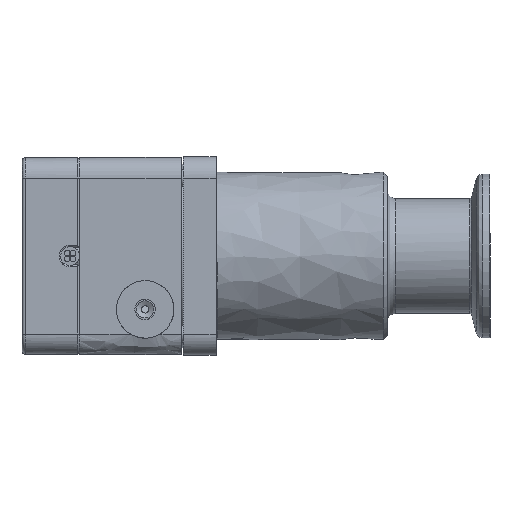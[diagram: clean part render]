
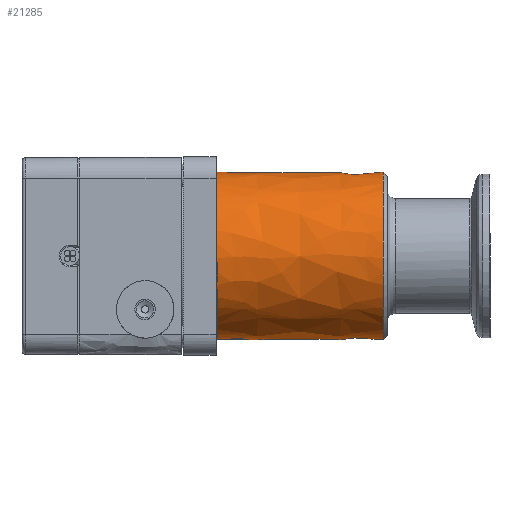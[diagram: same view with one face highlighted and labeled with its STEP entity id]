
A CAD part, left-side view. The second image highlights one B-rep face of the part: STEP entity #21285.
In plain terms, the highlighted free-form (B-spline) face has degree [2, 1] with [7, 2] control points.
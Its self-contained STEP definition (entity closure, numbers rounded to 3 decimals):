
#19732=CARTESIAN_POINT('V2',(66.5,20.45,
   0.0));
#19733=VERTEX_POINT('V2',#19732);
#19757=CARTESIAN_POINT('E2',(66.5,20.45,
   0.0));
#19758=CARTESIAN_POINT('E2',(66.5,20.45,
   35.42));
#19759=CARTESIAN_POINT('E2',(66.5,-10.225,
   17.71));
#19760=CARTESIAN_POINT('E2',(66.5,-40.9,
   0.));
#19761=CARTESIAN_POINT('E2',(66.5,-10.225,
   -17.71));
#19762=CARTESIAN_POINT('E2',(66.5,20.45,
   -35.42));
#19763=CARTESIAN_POINT('E2',(66.5,20.45,
   0.0));
#19771=(BOUNDED_CURVE()B_SPLINE_CURVE(2,(#19757,#19758,#19759,
   #19760,#19761,#19762,#19763),.CIRCULAR_ARC.,.T.,.U.)
   B_SPLINE_CURVE_WITH_KNOTS((3,2,2,3),(0.0,251.685,
   503.37,755.055),.UNSPECIFIED.)CURVE()
   GEOMETRIC_REPRESENTATION_ITEM()RATIONAL_B_SPLINE_CURVE((1.0,
   0.5,1.0,0.5,1.0,0.5,1.0)
   )REPRESENTATION_ITEM('E2'));
#19772=EDGE_CURVE('E2',#19733,#19733,#19771,.T.);
#21163=CARTESIAN_POINT('V29',(26.,20.45,
   0.0));
#21164=VERTEX_POINT('V29',#21163);
#21170=CARTESIAN_POINT('E49',(26.,20.45,
   0.0));
#21171=CARTESIAN_POINT('E49',(26.,20.45,
   35.42));
#21172=CARTESIAN_POINT('E49',(26.,-10.225,
   17.71));
#21173=CARTESIAN_POINT('E49',(26.,-40.9,
   0.));
#21174=CARTESIAN_POINT('E49',(26.,-10.225,
   -17.71));
#21175=CARTESIAN_POINT('E49',(26.,20.45,
   -35.42));
#21176=CARTESIAN_POINT('E49',(26.,20.45,
   0.0));
#21184=(BOUNDED_CURVE()B_SPLINE_CURVE(2,(#21170,#21171,#21172,
   #21173,#21174,#21175,#21176),.CIRCULAR_ARC.,.T.,.U.)
   B_SPLINE_CURVE_WITH_KNOTS((3,2,2,3),(0.0,48.867,
   97.735,146.602),.UNSPECIFIED.)CURVE()
   GEOMETRIC_REPRESENTATION_ITEM()RATIONAL_B_SPLINE_CURVE((1.0,
   0.5,1.0,0.5,1.0,0.5,1.0)
   )REPRESENTATION_ITEM('E49'));
#21185=EDGE_CURVE('E49',#21164,#21164,#21184,.T.);
#21192=CARTESIAN_POINT('F28',(26.,20.45,
   0.0));
#21193=CARTESIAN_POINT('F28',(26.,20.45,
   35.42));
#21194=CARTESIAN_POINT('F28',(26.,-10.225,
   17.71));
#21195=CARTESIAN_POINT('F28',(26.,-40.9,
   0.));
#21196=CARTESIAN_POINT('F28',(26.,-10.225,
   -17.71));
#21197=CARTESIAN_POINT('F28',(26.,20.45,
   -35.42));
#21198=CARTESIAN_POINT('F28',(26.,20.45,
   0.0));
#21199=CARTESIAN_POINT('F28',(66.5,20.45,
   0.0));
#21200=CARTESIAN_POINT('F28',(66.5,20.45,
   35.42));
#21201=CARTESIAN_POINT('F28',(66.5,-10.225,
   17.71));
#21202=CARTESIAN_POINT('F28',(66.5,-40.9,
   0.));
#21203=CARTESIAN_POINT('F28',(66.5,-10.225,
   -17.71));
#21204=CARTESIAN_POINT('F28',(66.5,20.45,
   -35.42));
#21205=CARTESIAN_POINT('F28',(66.5,20.45,
   0.0));
#21213=(BOUNDED_SURFACE()B_SPLINE_SURFACE(2,1,((#21192,#21199),(
   #21193,#21200),(#21194,#21201),(#21195,#21202),(#21196,
   #21203),(#21197,#21204),(#21198,#21205)),.CYLINDRICAL_SURF.,
   .T.,.F.,.U.)B_SPLINE_SURFACE_WITH_KNOTS((3,2,2,3),(2,2),(0.0,
   1.749,3.498,5.247),(0.0,1.0),
   .UNSPECIFIED.)GEOMETRIC_REPRESENTATION_ITEM()
   RATIONAL_B_SPLINE_SURFACE(((1.0,1.0),(0.5,
   0.5),(1.0,1.0),(0.5,
   0.5),(1.0,1.0),(0.5,
   0.5),(1.0,1.0)))REPRESENTATION_ITEM('F28')SURFACE(
   ));
#21214=CARTESIAN_POINT('V30',(50.,16.185,
   12.5));
#21215=VERTEX_POINT('V30',#21214);
#21216=CARTESIAN_POINT('V31',(37.5,20.45,
   0.0));
#21217=VERTEX_POINT('V31',#21216);
#21218=CARTESIAN_POINT('E50',(50.,16.185,
   12.5));
#21219=CARTESIAN_POINT('E50',(49.162,16.185,
   12.5));
#21220=CARTESIAN_POINT('E50',(48.334,16.251,
   12.416));
#21221=CARTESIAN_POINT('E50',(45.225,16.721,
   11.787));
#21222=CARTESIAN_POINT('E50',(43.155,17.512,
   10.697));
#21223=CARTESIAN_POINT('E50',(39.955,18.999,
   7.736));
#21224=CARTESIAN_POINT('E50',(38.618,19.779,
   5.756));
#21225=CARTESIAN_POINT('E50',(37.651,20.356,
   2.236));
#21226=CARTESIAN_POINT('E50',(37.5,20.45,
   1.125));
#21227=CARTESIAN_POINT('E50',(37.5,20.45,
   0.0));
#21228=B_SPLINE_CURVE_WITH_KNOTS('E50',3,(#21218,#21219,#21220,
   #21221,#21222,#21223,#21224,#21225,#21226,#21227),.UNSPECIFIED.,
   .F.,.U.,(4,2,2,2,4),(0.0,0.13,0.499,
   0.847,1.0),.UNSPECIFIED.);
#21229=EDGE_CURVE('E50',#21215,#21217,#21228,.T.);
#21230=ORIENTED_EDGE('E50',*,*,#21229,.F.);
#21231=CARTESIAN_POINT('V32',(62.5,20.45,
   0.0));
#21232=VERTEX_POINT('V32',#21231);
#21233=CARTESIAN_POINT('E54',(62.5,20.45,
   0.0));
#21234=CARTESIAN_POINT('E54',(62.5,20.45,
   1.465));
#21235=CARTESIAN_POINT('E54',(62.244,20.291,
   2.901));
#21236=CARTESIAN_POINT('E54',(61.053,19.591,
   6.188));
#21237=CARTESIAN_POINT('E54',(59.938,18.958,
   7.789));
#21238=CARTESIAN_POINT('E54',(57.026,17.586,
   10.581));
#21239=CARTESIAN_POINT('E54',(54.979,16.785,
   11.699));
#21240=CARTESIAN_POINT('E54',(51.823,16.264,
   12.4));
#21241=CARTESIAN_POINT('E54',(50.918,16.185,
   12.5));
#21242=CARTESIAN_POINT('E54',(50.,16.185,
   12.5));
#21243=B_SPLINE_CURVE_WITH_KNOTS('E54',3,(#21233,#21234,#21235,
   #21236,#21237,#21238,#21239,#21240,#21241,#21242),.UNSPECIFIED.,
   .F.,.U.,(4,2,2,2,4),(0.0,0.203,0.493,
   0.858,1.0),.UNSPECIFIED.);
#21244=EDGE_CURVE('E54',#21232,#21215,#21243,.T.);
#21245=ORIENTED_EDGE('E54',*,*,#21244,.F.);
#21246=CARTESIAN_POINT('E53',(66.5,20.45,
   0.0));
#21247=CARTESIAN_POINT('E53',(62.5,20.45,
   0.0));
#21248=B_SPLINE_CURVE_WITH_KNOTS('E53',1,(#21246,#21247),
   .POLYLINE_FORM.,.F.,.U.,(2,2),(0.0,0.099),
   .UNSPECIFIED.);
#21249=EDGE_CURVE('E53',#19733,#21232,#21248,.T.);
#21250=ORIENTED_EDGE('E53',*,*,#21249,.F.);
#21251=ORIENTED_EDGE('F1',*,*,#19772,.T.);
#21252=ORIENTED_EDGE('E53',*,*,#21249,.T.);
#21253=CARTESIAN_POINT('E52',(37.5,20.45,
   0.0));
#21254=CARTESIAN_POINT('E52',(37.5,20.45,
   -0.79));
#21255=CARTESIAN_POINT('E52',(37.575,20.404,
   -1.574));
#21256=CARTESIAN_POINT('E52',(37.918,20.197,
   -3.37));
#21257=CARTESIAN_POINT('E52',(38.239,20.004,
   -4.354));
#21258=CARTESIAN_POINT('E52',(39.489,19.287,
   -7.038));
#21259=CARTESIAN_POINT('E52',(40.66,18.649,
   -8.485));
#21260=CARTESIAN_POINT('E52',(43.701,17.3,
   -11.025));
#21261=CARTESIAN_POINT('E52',(45.861,16.532,
   -12.045));
#21262=CARTESIAN_POINT('E52',(49.334,16.165,
   -12.528));
#21263=CARTESIAN_POINT('E52',(50.398,16.155,
   -12.539));
#21264=CARTESIAN_POINT('E52',(52.53,16.347,
   -12.289));
#21265=CARTESIAN_POINT('E52',(53.517,16.541,
   -12.032));
#21266=CARTESIAN_POINT('E52',(56.129,17.226,
   -11.049));
#21267=CARTESIAN_POINT('E52',(57.709,17.891,
   -10.018));
#21268=CARTESIAN_POINT('E52',(60.33,19.166,
   -7.291));
#21269=CARTESIAN_POINT('E52',(61.456,19.823,
   -5.488));
#21270=CARTESIAN_POINT('E52',(62.349,20.356,
   -2.236));
#21271=CARTESIAN_POINT('E52',(62.5,20.45,
   -1.125));
#21272=CARTESIAN_POINT('E52',(62.5,20.45,
   0.0));
#21273=B_SPLINE_CURVE_WITH_KNOTS('E52',3,(#21253,#21254,#21255,
   #21256,#21257,#21258,#21259,#21260,#21261,#21262,#21263,#21264,
   #21265,#21266,#21267,#21268,#21269,#21270,#21271,#21272),
   .UNSPECIFIED.,.F.,.U.,(4,2,2,2,2,2,2,2,2,4),(0.0,
   0.055,0.129,0.269,
   0.45,0.529,0.609,
   0.765,0.922,1.0),.UNSPECIFIED.);
#21274=EDGE_CURVE('E52',#21217,#21232,#21273,.T.);
#21275=ORIENTED_EDGE('E52',*,*,#21274,.F.);
#21276=CARTESIAN_POINT('E51',(37.5,20.45,
   0.0));
#21277=CARTESIAN_POINT('E51',(26.,20.45,
   0.0));
#21278=B_SPLINE_CURVE_WITH_KNOTS('E51',1,(#21276,#21277),
   .POLYLINE_FORM.,.F.,.U.,(2,2),(0.716,1.0),
   .UNSPECIFIED.);
#21279=EDGE_CURVE('E51',#21217,#21164,#21278,.T.);
#21280=ORIENTED_EDGE('E51',*,*,#21279,.T.);
#21281=ORIENTED_EDGE('E49',*,*,#21185,.F.);
#21282=ORIENTED_EDGE('E51',*,*,#21279,.F.);
#21283=EDGE_LOOP('F28',(#21230,#21245,#21250,#21251,#21252,#21275,
   #21280,#21281,#21282));
#21284=FACE_OUTER_BOUND('F28',#21283,.F.);
#21285=ADVANCED_FACE('F28',(#21284),#21213,.T.);
